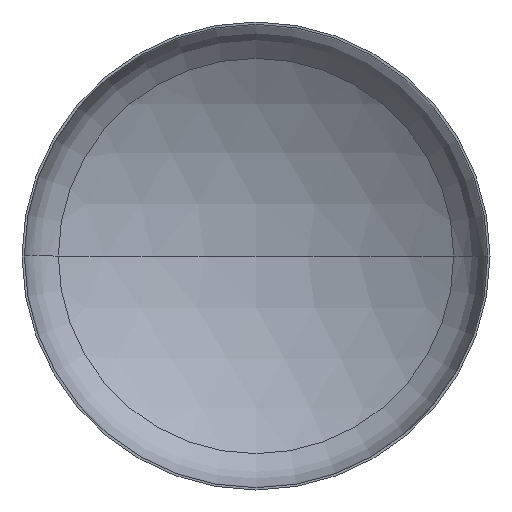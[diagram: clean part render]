
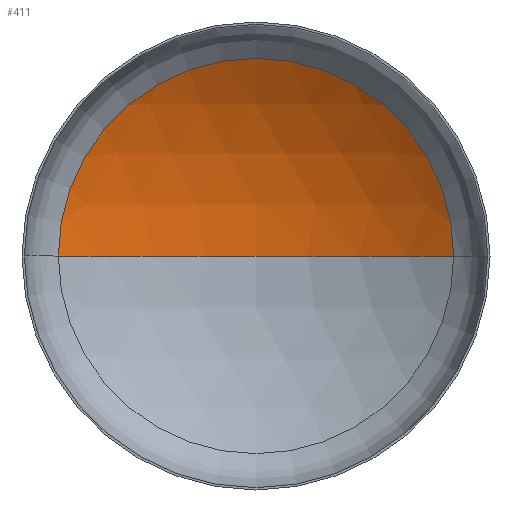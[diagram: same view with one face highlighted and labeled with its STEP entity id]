
A CAD part, front view. The second image highlights one B-rep face of the part: STEP entity #411.
In plain terms, the highlighted spherical face has radius 6000 mm.
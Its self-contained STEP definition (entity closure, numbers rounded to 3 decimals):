
#8 = SPHERICAL_SURFACE ( 'NONE', #272, 6000. ) ;
#21 = ORIENTED_EDGE ( 'NONE', *, *, #171, .T. ) ;
#25 = ORIENTED_EDGE ( 'NONE', *, *, #173, .T. ) ;
#56 = ORIENTED_EDGE ( 'NONE', *, *, #175, .F. ) ;
#64 = DIRECTION ( 'NONE',  ( 0., 0., -1. ) ) ;
#69 = VERTEX_POINT ( 'NONE', #244 ) ;
#86 = VERTEX_POINT ( 'NONE', #240 ) ;
#97 = EDGE_LOOP ( 'NONE', ( #56, #25, #21 ) ) ;
#122 = AXIS2_PLACEMENT_3D ( 'NONE', #202, #204, #182 ) ;
#124 = AXIS2_PLACEMENT_3D ( 'NONE', #296, #219, #215 ) ;
#126 = AXIS2_PLACEMENT_3D ( 'NONE', #163, #189, #190 ) ;
#163 = CARTESIAN_POINT ( 'NONE',  ( 0., 1100.901, 0. ) ) ;
#168 = CIRCLE ( 'NONE', #122, 6000. ) ;
#171 = EDGE_CURVE ( 'NONE', #86, #274, #360, .T. ) ;
#173 = EDGE_CURVE ( 'NONE', #69, #86, #313, .T. ) ;
#175 = EDGE_CURVE ( 'NONE', #69, #274, #168, .T. ) ;
#182 = DIRECTION ( 'NONE',  ( 1., 0., 0. ) ) ;
#189 = DIRECTION ( 'NONE',  ( 0., -1., 0. ) ) ;
#190 = DIRECTION ( 'NONE',  ( 1., 0., 0. ) ) ;
#202 = CARTESIAN_POINT ( 'NONE',  ( 0., -3994.688, 0. ) ) ;
#204 = DIRECTION ( 'NONE',  ( 0., 0., 1. ) ) ;
#215 = DIRECTION ( 'NONE',  ( -1., 0., 0. ) ) ;
#219 = DIRECTION ( 'NONE',  ( 0., 0., -1. ) ) ;
#240 = CARTESIAN_POINT ( 'NONE',  ( 3167.802, 1100.901, 0. ) ) ;
#244 = CARTESIAN_POINT ( 'NONE',  ( 0., 2005.312, 0. ) ) ;
#272 = AXIS2_PLACEMENT_3D ( 'NONE', #305, #64, #302 ) ;
#274 = VERTEX_POINT ( 'NONE', #378 ) ;
#296 = CARTESIAN_POINT ( 'NONE',  ( 0., -3994.688, 0. ) ) ;
#302 = DIRECTION ( 'NONE',  ( -1., 0., 0. ) ) ;
#305 = CARTESIAN_POINT ( 'NONE',  ( 0., -3994.688, 0. ) ) ;
#313 = CIRCLE ( 'NONE', #124, 6000. ) ;
#360 = CIRCLE ( 'NONE', #126, 3167.802 ) ;
#378 = CARTESIAN_POINT ( 'NONE',  ( -3167.802, 1100.901, 0. ) ) ;
#399 = FACE_OUTER_BOUND ( 'NONE', #97, .T. ) ;
#411 = ADVANCED_FACE ( 'NONE', ( #399 ), #8, .F. ) ;
